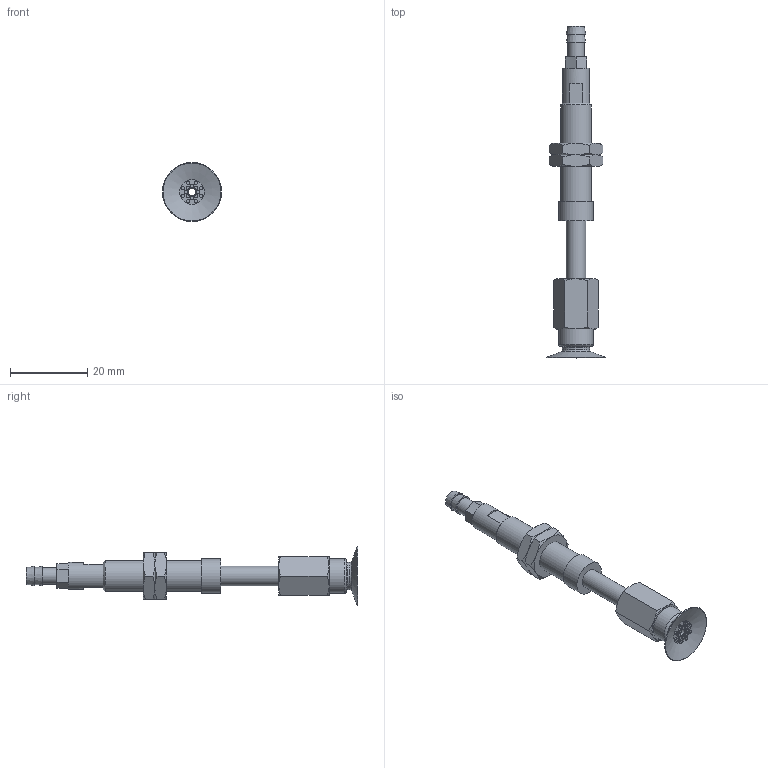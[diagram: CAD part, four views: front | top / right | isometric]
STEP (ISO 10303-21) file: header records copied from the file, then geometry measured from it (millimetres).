
FILE_DESCRIPTION(('STEP AP203'),'1');
FILE_NAME('-T.stp','2025-08-26T08:49:32',(' '),(' '),'Spatial InterOp 3D',' ',' ');
FILE_SCHEMA(('CONFIG_CONTROL_DESIGN'));
Length unit declared in the file: millimetre
Products named in the file (7): BNABPATS-15A-15-※-T; ADAPTER; NAPATS-10A-15--M; NAPATS-10A-15--F; Nut-10A-S; BPAG-15A-※_3D; T
Assembly tree (7 placements, depth 2):
  BNABPATS-15A-15-※-T
    ADAPTER
    NAPATS-10A-15--M
    NAPATS-10A-15--F
    Nut-10A-S  x2
    BPAG-15A-※_3D
    T
Bounding box: 15.3 x 86 x 15.3 mm (x, y, z)
Volume: 4135.3 mm3; surface area: 5283.5 mm2
Topology: 7 solids, 7 shells, 162 faces, 315 edges, 194 vertices
Faces by surface type: plane 69, cone 48, cylinder 36, torus 9
Full cylindrical faces by diameter (mm): 0.9 x16, 2 x3, 3 x1, 4 x2, 4.134 x1, 4.3 x1, 5 x3, 6 x2, 7 x2, 7.188 x2, 8 x1, 9 x2
Entity records: 3746 total; most frequent: CARTESIAN_POINT 799, DIRECTION 568, ORIENTED_EDGE 410, AXIS2_PLACEMENT_3D 264, EDGE_LOOP 232, EDGE_CURVE 205, FACE_OUTER_BOUND 183, VERTEX_POINT 159
